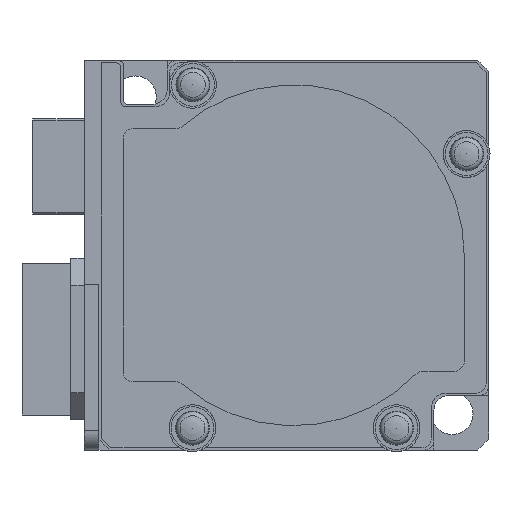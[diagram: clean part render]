
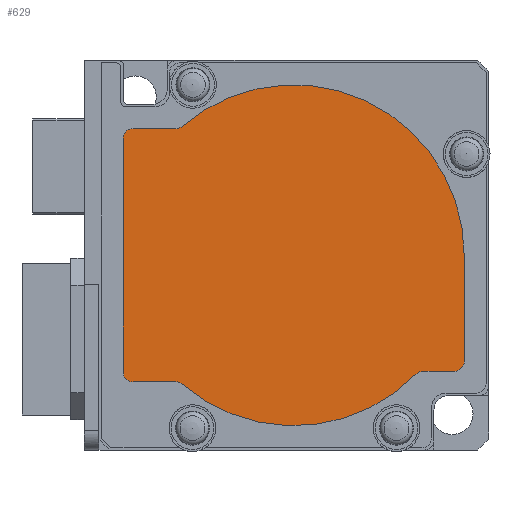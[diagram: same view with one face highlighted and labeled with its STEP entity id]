
A CAD part, left-side view. The second image highlights one B-rep face of the part: STEP entity #629.
In plain terms, the highlighted planar face has unit normal (-1, 0, 0).
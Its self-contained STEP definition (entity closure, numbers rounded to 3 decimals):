
#629 = ADVANCED_FACE( '', ( #1650 ), #1651, .F. );
#1650 = FACE_OUTER_BOUND( '', #3153, .T. );
#1651 = PLANE( '', #3154 );
#3153 = EDGE_LOOP( '', ( #4972, #4973, #4974, #4975, #4976, #4977, #4978, #4979, #4980, #4981, #4982, #4983, #4984 ) );
#3154 = AXIS2_PLACEMENT_3D( '', #4985, #4986, #4987 );
#4972 = ORIENTED_EDGE( '', *, *, #8725, .F. );
#4973 = ORIENTED_EDGE( '', *, *, #8552, .F. );
#4974 = ORIENTED_EDGE( '', *, *, #8726, .T. );
#4975 = ORIENTED_EDGE( '', *, *, #8727, .F. );
#4976 = ORIENTED_EDGE( '', *, *, #8728, .F. );
#4977 = ORIENTED_EDGE( '', *, *, #8729, .F. );
#4978 = ORIENTED_EDGE( '', *, *, #8730, .F. );
#4979 = ORIENTED_EDGE( '', *, *, #8731, .F. );
#4980 = ORIENTED_EDGE( '', *, *, #8732, .T. );
#4981 = ORIENTED_EDGE( '', *, *, #8733, .F. );
#4982 = ORIENTED_EDGE( '', *, *, #8734, .T. );
#4983 = ORIENTED_EDGE( '', *, *, #8735, .F. );
#4984 = ORIENTED_EDGE( '', *, *, #8736, .F. );
#4985 = CARTESIAN_POINT( '', ( -71.5, 0., 0. ) );
#4986 = DIRECTION( '', ( 1., 0., 0. ) );
#4987 = DIRECTION( '', ( 0., 0., -1. ) );
#8552 = EDGE_CURVE( '', #10202, #10203, #10204, .T. );
#8725 = EDGE_CURVE( '', #10203, #10501, #10502, .T. );
#8726 = EDGE_CURVE( '', #10202, #10503, #10504, .T. );
#8727 = EDGE_CURVE( '', #10505, #10503, #10506, .T. );
#8728 = EDGE_CURVE( '', #10507, #10505, #10508, .T. );
#8729 = EDGE_CURVE( '', #10509, #10507, #10510, .T. );
#8730 = EDGE_CURVE( '', #10511, #10509, #10512, .T. );
#8731 = EDGE_CURVE( '', #10513, #10511, #10514, .T. );
#8732 = EDGE_CURVE( '', #10513, #10515, #10516, .T. );
#8733 = EDGE_CURVE( '', #10517, #10515, #10518, .T. );
#8734 = EDGE_CURVE( '', #10517, #10519, #10520, .T. );
#8735 = EDGE_CURVE( '', #10521, #10519, #10522, .T. );
#8736 = EDGE_CURVE( '', #10501, #10521, #10523, .T. );
#10202 = VERTEX_POINT( '', #12572 );
#10203 = VERTEX_POINT( '', #12573 );
#10204 = CIRCLE( '', #12574, 17.5 );
#10501 = VERTEX_POINT( '', #12988 );
#10502 = LINE( '', #12989, #12990 );
#10503 = VERTEX_POINT( '', #12991 );
#10504 = CIRCLE( '', #12992, 1. );
#10505 = VERTEX_POINT( '', #12993 );
#10506 = LINE( '', #12994, #12995 );
#10507 = VERTEX_POINT( '', #12996 );
#10508 = CIRCLE( '', #12997, 1. );
#10509 = VERTEX_POINT( '', #12998 );
#10510 = LINE( '', #12999, #13000 );
#10511 = VERTEX_POINT( '', #13001 );
#10512 = CIRCLE( '', #13002, 1. );
#10513 = VERTEX_POINT( '', #13003 );
#10514 = LINE( '', #13004, #13005 );
#10515 = VERTEX_POINT( '', #13006 );
#10516 = CIRCLE( '', #13007, 1. );
#10517 = VERTEX_POINT( '', #13008 );
#10518 = CIRCLE( '', #13009, 17.5 );
#10519 = VERTEX_POINT( '', #13010 );
#10520 = CIRCLE( '', #13011, 1. );
#10521 = VERTEX_POINT( '', #13012 );
#10522 = LINE( '', #13013, #13014 );
#10523 = CIRCLE( '', #13015, 1. );
#12572 = CARTESIAN_POINT( '', ( -71.5, 11.44, 13.243 ) );
#12573 = CARTESIAN_POINT( '', ( -71.5, -17.5, 0. ) );
#12574 = AXIS2_PLACEMENT_3D( '', #15499, #15500, #15501 );
#12988 = CARTESIAN_POINT( '', ( -71.5, -17.5, -10.9 ) );
#12989 = CARTESIAN_POINT( '', ( -71.5, -17.5, 0. ) );
#12990 = VECTOR( '', #15688, 1000. );
#12991 = CARTESIAN_POINT( '', ( -71.5, 12.093, 13. ) );
#12992 = AXIS2_PLACEMENT_3D( '', #15689, #15690, #15691 );
#12993 = CARTESIAN_POINT( '', ( -71.5, 16.5, 13. ) );
#12994 = CARTESIAN_POINT( '', ( -71.5, 16.5, 13. ) );
#12995 = VECTOR( '', #15692, 1000. );
#12996 = CARTESIAN_POINT( '', ( -71.5, 17.5, 12. ) );
#12997 = AXIS2_PLACEMENT_3D( '', #15693, #15694, #15695 );
#12998 = CARTESIAN_POINT( '', ( -71.5, 17.5, -12. ) );
#12999 = CARTESIAN_POINT( '', ( -71.5, 17.5, -12. ) );
#13000 = VECTOR( '', #15696, 1000. );
#13001 = CARTESIAN_POINT( '', ( -71.5, 16.5, -13. ) );
#13002 = AXIS2_PLACEMENT_3D( '', #15697, #15698, #15699 );
#13003 = CARTESIAN_POINT( '', ( -71.5, 12.093, -13. ) );
#13004 = CARTESIAN_POINT( '', ( -71.5, 12.093, -13. ) );
#13005 = VECTOR( '', #15700, 1000. );
#13006 = CARTESIAN_POINT( '', ( -71.5, 11.44, -13.243 ) );
#13007 = AXIS2_PLACEMENT_3D( '', #15701, #15702, #15703 );
#13008 = CARTESIAN_POINT( '', ( -71.5, -12.544, -12.203 ) );
#13009 = AXIS2_PLACEMENT_3D( '', #15704, #15705, #15706 );
#13010 = CARTESIAN_POINT( '', ( -71.5, -13.26, -11.9 ) );
#13011 = AXIS2_PLACEMENT_3D( '', #15707, #15708, #15709 );
#13012 = CARTESIAN_POINT( '', ( -71.5, -16.5, -11.9 ) );
#13013 = CARTESIAN_POINT( '', ( -71.5, -16.5, -11.9 ) );
#13014 = VECTOR( '', #15710, 1000. );
#13015 = AXIS2_PLACEMENT_3D( '', #15711, #15712, #15713 );
#15499 = CARTESIAN_POINT( '', ( -71.5, 0., 0. ) );
#15500 = DIRECTION( '', ( 1., 0., 0. ) );
#15501 = DIRECTION( '', ( 0., 0., -1. ) );
#15688 = DIRECTION( '', ( 0., 0., -1. ) );
#15689 = CARTESIAN_POINT( '', ( -71.5, 12.093, 14. ) );
#15690 = DIRECTION( '', ( 1., 0., 0. ) );
#15691 = DIRECTION( '', ( 0., 0., -1. ) );
#15692 = DIRECTION( '', ( 0., -1., 0. ) );
#15693 = CARTESIAN_POINT( '', ( -71.5, 16.5, 12. ) );
#15694 = DIRECTION( '', ( 1., 0., 0. ) );
#15695 = DIRECTION( '', ( 0., 0., -1. ) );
#15696 = DIRECTION( '', ( 0., 0., 1. ) );
#15697 = CARTESIAN_POINT( '', ( -71.5, 16.5, -12. ) );
#15698 = DIRECTION( '', ( 1., 0., 0. ) );
#15699 = DIRECTION( '', ( 0., 0., -1. ) );
#15700 = DIRECTION( '', ( 0., 1., 0. ) );
#15701 = CARTESIAN_POINT( '', ( -71.5, 12.093, -14. ) );
#15702 = DIRECTION( '', ( 1., 0., 0. ) );
#15703 = DIRECTION( '', ( 0., 0., -1. ) );
#15704 = CARTESIAN_POINT( '', ( -71.5, 0., 0. ) );
#15705 = DIRECTION( '', ( 1., 0., 0. ) );
#15706 = DIRECTION( '', ( 0., 0., -1. ) );
#15707 = CARTESIAN_POINT( '', ( -71.5, -13.26, -12.9 ) );
#15708 = DIRECTION( '', ( 1., 0., 0. ) );
#15709 = DIRECTION( '', ( 0., 0., -1. ) );
#15710 = DIRECTION( '', ( 0., 1., 0. ) );
#15711 = CARTESIAN_POINT( '', ( -71.5, -16.5, -10.9 ) );
#15712 = DIRECTION( '', ( 1., 0., 0. ) );
#15713 = DIRECTION( '', ( 0., 0., -1. ) );
